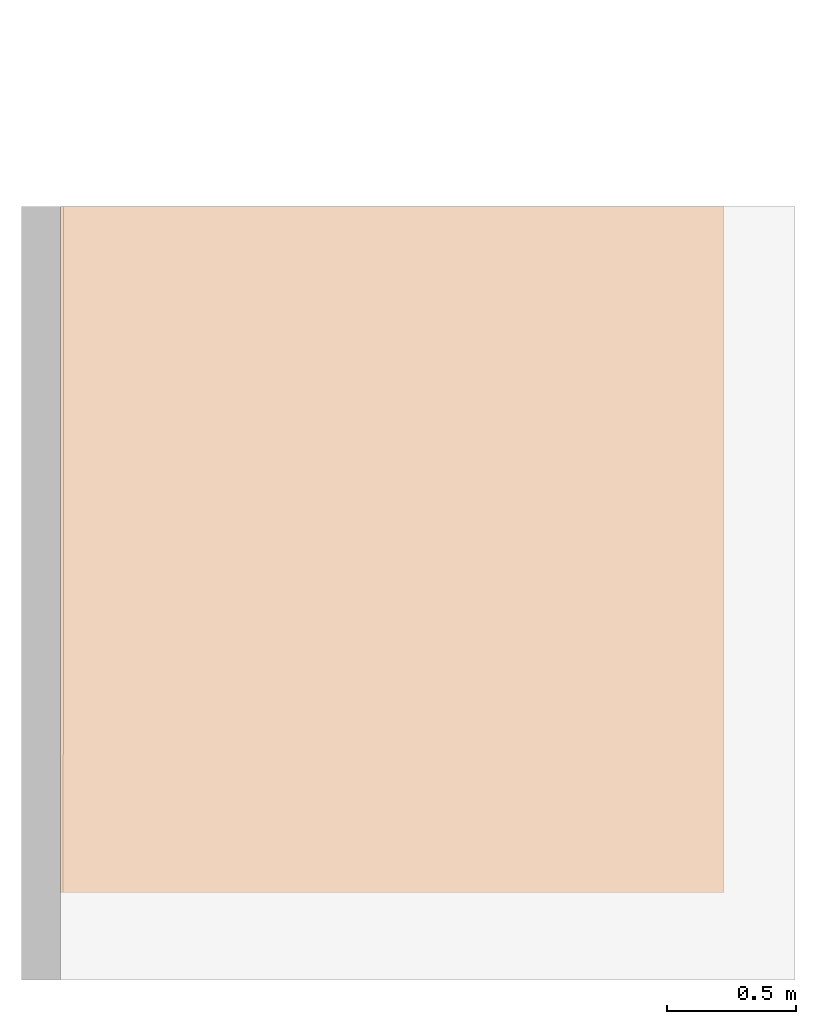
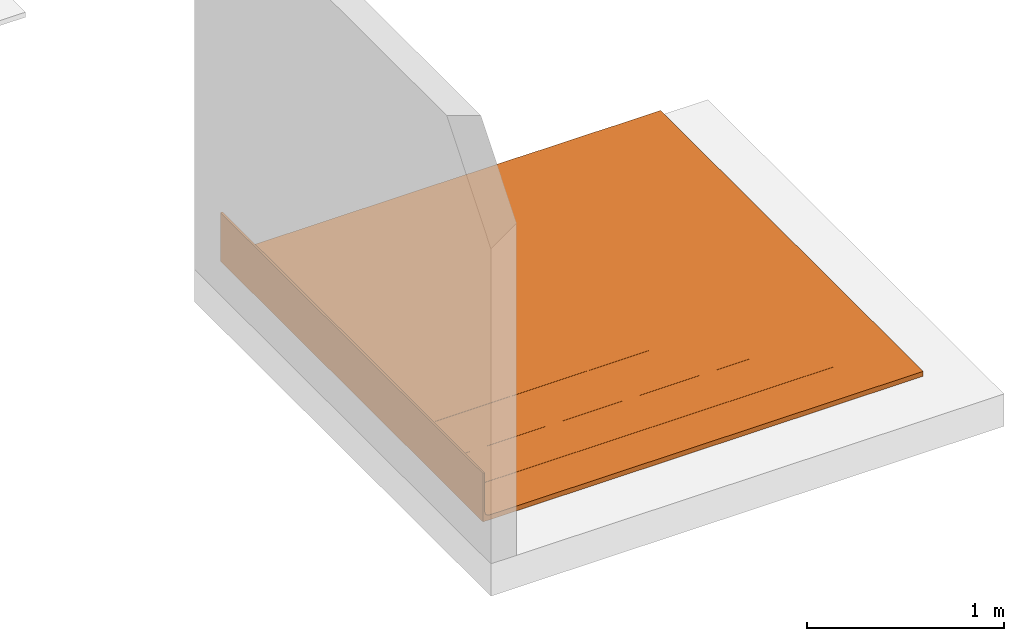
# One storey, part 2 of 2: 1 proxy.
"""IFC2X3 building model written with IfcOpenShell, lengths in metres."""

from ifc_helpers import new_model, entity, si_unit, converted_unit, derived_unit, direction, frame, frame_2d, origin, place, context, subcontext, project, spatial, polyline, circle_curve, parameter, trimmed, segment, composite_curve, outline, extrude, source, transform, mapped, material, material_list, type_object, type_shapes, element, save


model = new_model("IFC2X3")

# Units and contexts
model_context = context("Model", 3, precision=1e-05, world=origin(), true_north=direction((6.123031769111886e-17, 1.0)))
body_context = subcontext(model_context, "Body", "Model", "MODEL_VIEW")
ifc_project = project(units=[si_unit("LENGTHUNIT", "METRE"), si_unit("AREAUNIT", "SQUARE_METRE"), si_unit("VOLUMEUNIT", "CUBIC_METRE"), converted_unit("PLANEANGLEUNIT", "DEGREE", entity("IfcRatioMeasure", 0.017453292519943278), si_unit("PLANEANGLEUNIT", "RADIAN"), dimensions=[0, 0, 0, 0, 0, 0, 0]), si_unit("MASSUNIT", "GRAM", prefix="KILO"), derived_unit("MASSDENSITYUNIT", [(si_unit("MASSUNIT", "GRAM", prefix="KILO"), 1), (si_unit("LENGTHUNIT", "METRE"), -3)]), derived_unit("IONCONCENTRATIONUNIT", [(si_unit("MASSUNIT", "GRAM", prefix="KILO"), 1), (si_unit("LENGTHUNIT", "METRE"), -3)]), derived_unit("MOMENTOFINERTIAUNIT", [(si_unit("LENGTHUNIT", "METRE"), 4)]), si_unit("TIMEUNIT", "SECOND"), si_unit("FREQUENCYUNIT", "HERTZ"), si_unit("THERMODYNAMICTEMPERATUREUNIT", "DEGREE_CELSIUS"), derived_unit("THERMALTRANSMITTANCEUNIT", [(si_unit("MASSUNIT", "GRAM", prefix="KILO"), 1), (si_unit("THERMODYNAMICTEMPERATUREUNIT", "KELVIN"), -1), (si_unit("TIMEUNIT", "SECOND"), -3)]), derived_unit("THERMALCONDUCTANCEUNIT", [(si_unit("MASSUNIT", "GRAM", prefix="KILO"), 1), (si_unit("THERMODYNAMICTEMPERATUREUNIT", "KELVIN"), -1), (si_unit("TIMEUNIT", "SECOND"), -3), (si_unit("LENGTHUNIT", "METRE"), 1)]), derived_unit("VOLUMETRICFLOWRATEUNIT", [(si_unit("LENGTHUNIT", "METRE"), 3), (si_unit("TIMEUNIT", "SECOND"), -1)]), derived_unit("MASSFLOWRATEUNIT", [(si_unit("MASSUNIT", "GRAM", prefix="KILO"), 1), (si_unit("TIMEUNIT", "SECOND"), -1)]), derived_unit("ROTATIONALFREQUENCYUNIT", [(si_unit("TIMEUNIT", "SECOND"), -1)]), si_unit("ELECTRICCURRENTUNIT", "AMPERE"), si_unit("ELECTRICVOLTAGEUNIT", "VOLT"), si_unit("POWERUNIT", "WATT"), si_unit("FORCEUNIT", "NEWTON", prefix="KILO"), si_unit("ILLUMINANCEUNIT", "LUX"), si_unit("LUMINOUSFLUXUNIT", "LUMEN"), si_unit("LUMINOUSINTENSITYUNIT", "CANDELA"), derived_unit("USERDEFINED", [(si_unit("MASSUNIT", "GRAM", prefix="KILO"), -1), (si_unit("LENGTHUNIT", "METRE"), -2), (si_unit("TIMEUNIT", "SECOND"), 3), (si_unit("LUMINOUSFLUXUNIT", "LUMEN"), 1)]), derived_unit("USERDEFINED", [(si_unit("MASSUNIT", "GRAM", prefix="KILO"), 1), (si_unit("TIMEUNIT", "SECOND"), -3), (si_unit("LENGTHUNIT", "METRE"), 3), (si_unit("ELECTRICCURRENTUNIT", "AMPERE"), -2)]), derived_unit("SOUNDPOWERUNIT", [(si_unit("MASSUNIT", "GRAM", prefix="KILO"), 1), (si_unit("TIMEUNIT", "SECOND"), -3), (si_unit("LENGTHUNIT", "METRE"), 2)]), derived_unit("SOUNDPRESSUREUNIT", [(si_unit("MASSUNIT", "GRAM", prefix="KILO"), 1), (si_unit("LENGTHUNIT", "METRE"), -1), (si_unit("TIMEUNIT", "SECOND"), -2)]), derived_unit("LINEARVELOCITYUNIT", [(si_unit("LENGTHUNIT", "METRE"), 1), (si_unit("TIMEUNIT", "SECOND"), -1)]), si_unit("PRESSUREUNIT", "PASCAL"), derived_unit("USERDEFINED", [(si_unit("MASSUNIT", "GRAM", prefix="KILO"), 1), (si_unit("LENGTHUNIT", "METRE"), -2), (si_unit("TIMEUNIT", "SECOND"), -2)]), derived_unit("LINEARFORCEUNIT", [(si_unit("MASSUNIT", "GRAM", prefix="KILO"), 1), (si_unit("TIMEUNIT", "SECOND"), -2)]), derived_unit("PLANARFORCEUNIT", [(si_unit("MASSUNIT", "GRAM", prefix="KILO"), 1), (si_unit("LENGTHUNIT", "METRE"), -1), (si_unit("TIMEUNIT", "SECOND"), -2)]), derived_unit("SPECIFICHEATCAPACITYUNIT", [(si_unit("THERMODYNAMICTEMPERATUREUNIT", "KELVIN"), -1), (si_unit("LENGTHUNIT", "METRE"), 2), (si_unit("TIMEUNIT", "SECOND"), -2)]), derived_unit("HEATINGVALUEUNIT", [(si_unit("LENGTHUNIT", "METRE"), 2), (si_unit("TIMEUNIT", "SECOND"), -2)]), derived_unit("VAPORPERMEABILITYUNIT", [(si_unit("LENGTHUNIT", "METRE"), -1), (si_unit("TIMEUNIT", "SECOND"), 1)]), derived_unit("DYNAMICVISCOSITYUNIT", [(si_unit("MASSUNIT", "GRAM", prefix="KILO"), 1), (si_unit("TIMEUNIT", "SECOND"), -1), (si_unit("LENGTHUNIT", "METRE"), -1)]), derived_unit("THERMALEXPANSIONCOEFFICIENTUNIT", [(si_unit("THERMODYNAMICTEMPERATUREUNIT", "KELVIN"), -1)]), derived_unit("MODULUSOFELASTICITYUNIT", [(si_unit("MASSUNIT", "GRAM", prefix="KILO"), 1), (si_unit("LENGTHUNIT", "METRE"), -1), (si_unit("TIMEUNIT", "SECOND"), -2)]), derived_unit("ISOTHERMALMOISTURECAPACITYUNIT", [(si_unit("LENGTHUNIT", "METRE"), 3), (si_unit("MASSUNIT", "GRAM", prefix="KILO"), -1)]), derived_unit("MOISTUREDIFFUSIVITYUNIT", [(si_unit("TIMEUNIT", "SECOND"), -1), (si_unit("LENGTHUNIT", "METRE"), 2)])], contexts=[model_context])

# Site, building, storey
site_placement = place(None, origin())
site = spatial("IfcSite", under=ifc_project, at=site_placement, Name="Default", CompositionType="ELEMENT")
building_placement = place(site_placement, origin())
building = spatial("IfcBuilding", under=site, at=building_placement, CompositionType="ELEMENT")
storey_placement = place(building_placement, frame((0.0, 0.0, -0.0025237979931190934)))
storey = spatial("IfcBuildingStorey", under=building, at=storey_placement, Name="ARQ Térreo", CompositionType="ELEMENT", Elevation=-0.0025237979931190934)

# Proxy
ifc_material_1 = material(Name="#Vedalage Plus")
ifc_material_2 = material(Name="#mantex")
ifc_material_3 = material(Name="#argamassa")
ifc_material_list = material_list([ifc_material_1, ifc_material_2, ifc_material_3])
building_element_proxy_type = type_object("IfcBuildingElementProxyType", Name="IMPER:IMPER", PredefinedType="NOTDEFINED", material=ifc_material_list)
shared_shape = source(origin(), body_context, "Body", "SweptSolid", [
    extrude(outline(composite_curve([segment(trimmed(circle_curve(frame_2d((-0.3402425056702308, 0.045964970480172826), x_axis=(1.0, 0.0)), 0.02819999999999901), [parameter(92.44481457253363)], [parameter(178.37721505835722)], True, "PARAMETER"), True, "CONTINUOUS"), segment(polyline([(-0.3684311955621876, 0.046763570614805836), (-0.3684311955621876, -0.1940350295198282)]), True, "CONTINUOUS"), segment(polyline([(-0.3684311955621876, -0.1940350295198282), (-0.3674311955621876, -0.1940350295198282)]), True, "CONTINUOUS"), segment(polyline([(-0.3674311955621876, -0.1940350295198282), (-0.3674311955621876, 0.04674928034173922)]), True, "CONTINUOUS"), segment(trimmed(circle_curve(frame_2d((-0.3402425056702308, 0.045964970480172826), x_axis=(1.0, 0.0)), 0.02719999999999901), [parameter(92.48935731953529)], [parameter(178.34765167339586)], True, "PARAMETER"), False, "CONTINUOUS"), segment(polyline([(-0.3414239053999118, 0.07313930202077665), (1.077297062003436, 0.07313930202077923)]), True, "CONTINUOUS"), segment(polyline([(1.077297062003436, 0.07313930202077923), (1.077297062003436, 0.07413930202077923)]), True, "CONTINUOUS"), segment(polyline([(1.077297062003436, 0.07413930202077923), (-0.3414454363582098, 0.07413930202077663)]), True, "CONTINUOUS")], self_intersect=False)), frame((0.02827209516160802, -1.6636634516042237, 0.10344117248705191), z_axis=(0.0, 1.0, 0.0), x_axis=(1.0, 0.0, 0.0)), (0.0, 0.0, 1.0), 1.8095334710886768),
    extrude(outline(composite_curve([segment(trimmed(circle_curve(frame_2d((-0.4407836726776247, 0.045511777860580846), x_axis=(1.0, 0.0)), 0.028999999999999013), [parameter(92.41085211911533)], [parameter(178.399756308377)], True, "PARAMETER"), True, "CONTINUOUS"), segment(polyline([(-0.46977236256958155, 0.04632162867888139), (-0.46977236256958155, -0.19448822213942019)]), True, "CONTINUOUS"), segment(polyline([(-0.46977236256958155, -0.19448822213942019), (-0.4689723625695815, -0.19448822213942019)]), True, "CONTINUOUS"), segment(polyline([(-0.4689723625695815, -0.19448822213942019), (-0.4689723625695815, 0.04631037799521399)]), True, "CONTINUOUS"), segment(trimmed(circle_curve(frame_2d((-0.4407836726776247, 0.045511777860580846), x_axis=(1.0, 0.0)), 0.02819999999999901), [parameter(92.44481457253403)], [parameter(178.37721505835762)], True, "PARAMETER"), False, "CONTINUOUS"), segment(polyline([(-0.44198660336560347, 0.07368610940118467), (1.3807398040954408, 0.073686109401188)]), True, "CONTINUOUS"), segment(polyline([(1.3807398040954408, 0.073686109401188), (1.3807398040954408, 0.074486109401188)]), True, "CONTINUOUS"), segment(polyline([(1.3807398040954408, 0.074486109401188), (-0.44200355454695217, 0.07448610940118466)]), True, "CONTINUOUS")], self_intersect=False)), frame((0.1288132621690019, -1.981661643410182, 0.10298797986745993), z_axis=(0.0, 1.0, 0.0), x_axis=(1.0, 0.0, 0.0)), (0.0, 0.0, 1.0), 2.1275316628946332),
    extrude(outline(composite_curve([segment(polyline([(-0.7039515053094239, 0.0728571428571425), (1.8298787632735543, 0.0728571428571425)]), True, "CONTINUOUS"), segment(polyline([(1.8298787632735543, 0.0728571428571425), (1.8298787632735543, 0.10285714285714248)]), True, "CONTINUOUS"), segment(polyline([(1.8298787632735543, 0.10285714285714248), (-0.7439515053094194, 0.10285714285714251)]), True, "CONTINUOUS"), segment(polyline([(-0.7439515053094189, 0.1028571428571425), (-0.7439515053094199, -0.19714285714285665)]), True, "CONTINUOUS"), segment(polyline([(-0.7439515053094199, -0.19714285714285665), (-0.7339515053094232, -0.19714285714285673)]), True, "CONTINUOUS"), segment(polyline([(-0.7339515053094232, -0.19714285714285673), (-0.733951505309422, 0.042857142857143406)]), True, "CONTINUOUS"), segment(trimmed(circle_curve(frame_2d((-0.7039515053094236, 0.04285714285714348), x_axis=(1.0, 0.0)), 0.029999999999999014), [parameter(90.0000000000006)], [parameter(180.0000000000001)], True, "PARAMETER"), False, "CONTINUOUS")], self_intersect=False)), frame((0.39198109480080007, -2.5141299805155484, 0.10033334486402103), z_axis=(0.0, 1.0, 0.0), x_axis=(1.0, 0.0, 0.0)), (0.0, 0.0, 1.0), 2.660000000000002),
    extrude(outline(composite_curve([segment(polyline([(-0.5530448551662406, -0.04596503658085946), (-0.5530448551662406, 0.1948448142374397)]), True, "CONTINUOUS"), segment(polyline([(-0.5530448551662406, 0.1948448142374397), (-0.5540561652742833, 0.1948448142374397)]), True, "CONTINUOUS"), segment(polyline([(-0.5540561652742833, 0.1948448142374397), (-0.5540561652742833, -0.04515518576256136)]), True, "CONTINUOUS"), segment(trimmed(circle_curve(frame_2d((-0.5240561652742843, -0.04515518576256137), x_axis=(1.0, 0.0)), 0.029999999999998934), [parameter(179.99999999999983)], [parameter(270.00000000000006)], True, "PARAMETER"), True, "CONTINUOUS"), segment(polyline([(-0.5240561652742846, -0.07515518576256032), (1.6317671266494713, -0.07515518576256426)]), True, "CONTINUOUS"), segment(polyline([(1.6317671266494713, -0.07515518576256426), (1.6317671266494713, -0.07412951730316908)]), True, "CONTINUOUS"), segment(polyline([(1.6317671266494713, -0.07412951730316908), (-0.5252760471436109, -0.07412951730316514)]), True, "CONTINUOUS"), segment(trimmed(circle_curve(frame_2d((-0.5240561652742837, -0.04515518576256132), x_axis=(1.0, 0.0)), 0.028999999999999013), [parameter(181.60024369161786)], [parameter(267.5891478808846)], True, "PARAMETER"), False, "CONTINUOUS")], self_intersect=False)), frame((0.21208575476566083, -2.2541299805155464, 0.1026313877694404), z_axis=(0.0, -1.0, 0.0), x_axis=(1.0, 0.0, 0.0)), (0.0, 0.0, -1.0), 2.3999999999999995),
])
type_shapes(building_element_proxy_type, [shared_shape])
proxy_placement = place(storey_placement, frame((0.0, 0.0, 0.0025237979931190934)))
element("IfcBuildingElementProxy", 1, at=proxy_placement, inside=storey, type_object=building_element_proxy_type, material=ifc_material_list, Name="IMPER:IMPER:IMPER : IMPER:IMPER", ObjectType="IMPER:IMPER:IMPER : IMPER:IMPER", context=body_context, shape_type="MappedRepresentation", body=[
    mapped(shared_shape, transform((0.0, 0.0, 0.0), scale=1.0)),
])

save(model, "model.ifc")
